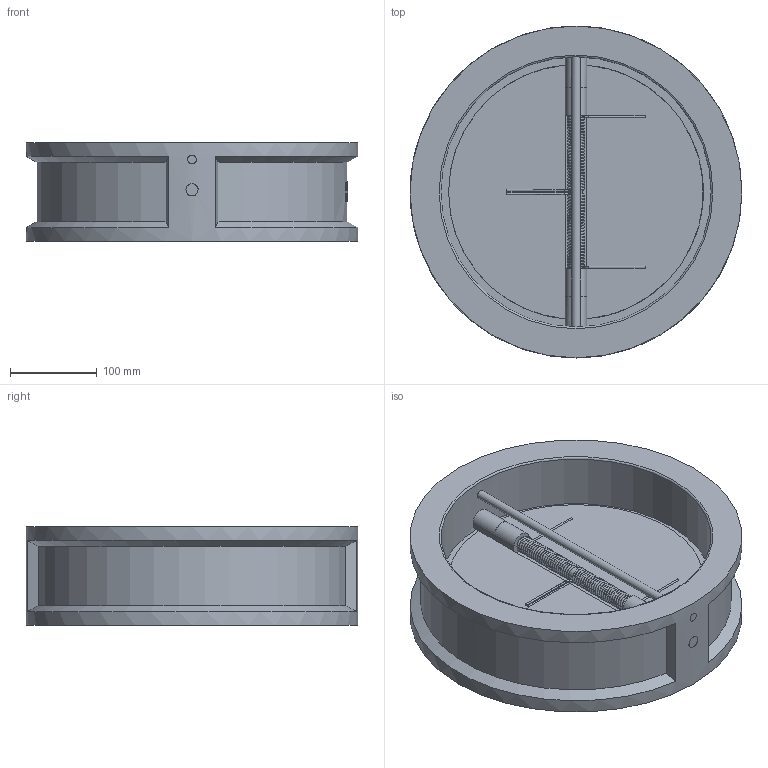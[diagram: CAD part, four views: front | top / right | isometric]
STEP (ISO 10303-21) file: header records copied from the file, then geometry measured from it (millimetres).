
FILE_DESCRIPTION( ( 'Unknown' ), '1' );
FILE_NAME( 'C:/Documents and Settings/Klaus/My Documents/Rootsi BPS 3D, Klaus/BPS 6525 double-door swing check valve/STEP/BPS6525300 double door swing check valve DN300.stp', 'Unknown', ( 'Unknown' ), ( 'Unknown' ), 'PSStep 10.1', 'Unknown', ' ' );
FILE_SCHEMA( ( 'AUTOMOTIVE_DESIGN { 1 0 10303 214 1 1 1 1 }' ) );
Length unit declared in the file: millimetre
Products named in the file (1): 1
Bounding box: 383 x 383 x 114 mm (x, y, z)
Volume: 5783886.4 mm3; surface area: 522991.9 mm2
Topology: 1 solids, 1 shells, 273 faces, 649 edges, 418 vertices
Faces by surface type: plane 109, bspline 89, cylinder 62, torus 7, cone 6
Full cylindrical faces by diameter (mm): 2 x6, 10 x1, 14 x3, 294 x1, 312 x1, 383 x1
Entity records: 27863 total; most frequent: CARTESIAN_POINT 20622, ORIENTED_EDGE 1212, DIRECTION 608, EDGE_CURVE 606, B_SPLINE_CURVE_WITH_KNOTS 442, VERTEX_POINT 410, EDGE_LOOP 360, FACE_OUTER_BOUND 307
